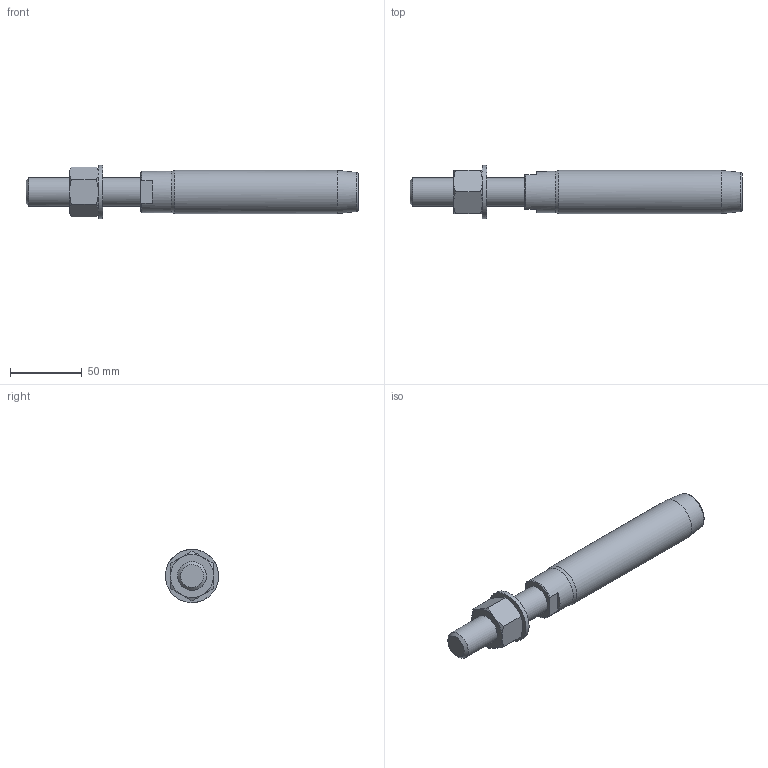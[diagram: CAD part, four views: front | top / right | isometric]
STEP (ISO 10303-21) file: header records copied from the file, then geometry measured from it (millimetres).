
FILE_DESCRIPTION(/* description */ (''),/* implementation_level */ '2;1');
FILE_NAME(/* name */ 'FLT 14_42CrMo4',/* time_stamp */ '2023-05-23T15:57:50+02:00',/* author */ (''),/* organization */ (''),/* preprocessor_version */ 'ST-DEVELOPER v16.5',/* originating_system */ 'Rhino 7.22',/* authorisation */ '');
FILE_SCHEMA (('CONFIG_CONTROL_DESIGN'));
Length unit declared in the file: millimetre
Products named in the file (1): Document
Bounding box: 231 x 36.96 x 37 mm (x, y, z)
Volume: 141838.3 mm3; surface area: 26312.9 mm2
Topology: 3 solids, 3 shells, 43 faces, 103 edges, 67 vertices
Faces by surface type: bspline 20, plane 17, cylinder 6
Full cylindrical faces by diameter (mm): 17.294 x1, 20 x1, 21 x1, 28.6 x1, 30 x1, 37 x1
Entity records: 1586 total; most frequent: CARTESIAN_POINT 881, ORIENTED_EDGE 206, EDGE_CURVE 103, VERTEX_POINT 67, EDGE_LOOP 48, ADVANCED_FACE 43, FACE_OUTER_BOUND 43, DIRECTION 27
